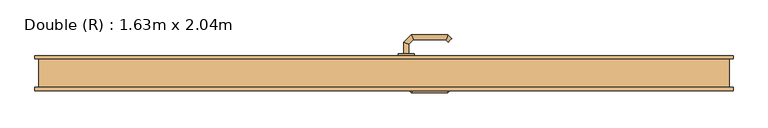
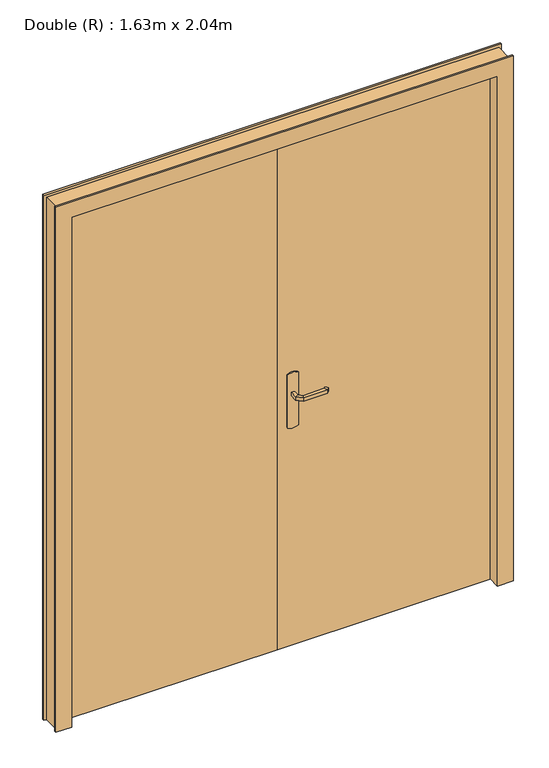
"""IFC4 building model written with IfcOpenShell, lengths in millimetres: door geometry, Double (R) : 1.63m x 2.04m."""

from ifc_helpers import new_model, si_unit, point, frame, frame_2d, origin, origin_with_axes, place, context, project, spatial, polyline, circle_curve, ellipse_curve, trimmed, segment, composite_curve, outline, extrude, faceted_brep, source, transform, mapped, element, save
from ifc_brep_helpers import plane_surface, cylinder_surface, advanced_brep


def double_r_1_63m_x_2_04m_24f9b1b7(model_context):
    return source(origin(), model_context, "Body", "SolidModel", [
        advanced_brep(
        [(61.0, -2.0, 993.0), (49.0, -2.0, 993.0), (49.0, -2.0, 1007.0), (61.0, -2.0, 1007.0), (61.0, -24.4852045, 1007.0), (61.0, -24.4852045, 993.0), (49.0, -29.4557673, 1007.0), (49.0, -29.4557673, 993.0), (72.4852814, -35.9704859, 1007.0), (72.4852814, -35.9704859, 993.0), (67.5147186, -47.9704859, 1007.0), (67.5147186, -47.9704859, 993.0), (152.5605023, -35.9704859, 1007.0), (152.5605023, -35.9704859, 993.0), (157.531065, -47.9704859, 1007.0), (157.531065, -47.9704859, 993.0), (157.8742108, -30.6567774, 993.0), (157.8742108, -30.6567774, 1007.0), (166.3594922, -39.1420588, 1007.0), (166.3594922, -39.1420588, 993.0)],
        [
            (0, 1, circle_curve(frame((55.0, -2.0, 1013.0457722), z_axis=(0.0, 1.0, 0.0), x_axis=(-1.0, 0.0, 0.0)), 20.9244589)),
            (1, 2),
            (2, 3, circle_curve(frame((55.0, -2.0, 986.9542278), z_axis=(0.0, 1.0, 0.0), x_axis=(-1.0, 0.0, 0.0)), 20.9244589)),
            (3, 0),
            (3, 4),
            (4, 5),
            (5, 0),
            (2, 6),
            (6, 4, ellipse_curve(frame((55.0, -26.9704859, 986.9542278), z_axis=(-0.38268343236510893, 0.9238795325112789, 0.0), x_axis=(0.9238795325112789, 0.3826834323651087, 0.0)), 22.6484711, 20.9244589)),
            (1, 7),
            (7, 6),
            (5, 7, ellipse_curve(frame((55.0, -26.9704859, 1013.0457722), z_axis=(-0.38268343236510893, 0.9238795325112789, 0.0), x_axis=(0.9238795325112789, 0.3826834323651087, 0.0)), 22.6484711, 20.9244589)),
            (4, 8),
            (8, 9),
            (9, 5),
            (6, 10),
            (10, 8, ellipse_curve(frame((70.0, -41.9704859, 986.9542278), z_axis=(-0.9238795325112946, 0.38268343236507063, 0.0), x_axis=(0.3826834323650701, 0.9238795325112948, 0.0)), 22.6484711, 20.9244589)),
            (7, 11),
            (11, 10),
            (9, 11, ellipse_curve(frame((70.0, -41.9704859, 1013.0457722), z_axis=(-0.9238795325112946, 0.38268343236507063, 0.0), x_axis=(0.3826834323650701, 0.9238795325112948, 0.0)), 22.6484711, 20.9244589)),
            (8, 12),
            (12, 13),
            (13, 9),
            (10, 14),
            (14, 12, ellipse_curve(frame((155.0457837, -41.9704859, 986.9542278), z_axis=(-0.9238795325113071, -0.38268343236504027, 0.0), x_axis=(-0.38268343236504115, 0.9238795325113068, 0.0)), 22.6484711, 20.9244589)),
            (11, 15),
            (15, 14),
            (13, 15, ellipse_curve(frame((155.0457837, -41.9704859, 1013.0457722), z_axis=(-0.9238795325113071, -0.38268343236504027, 0.0), x_axis=(-0.38268343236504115, 0.9238795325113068, 0.0)), 22.6484711, 20.9244589)),
            (16, 17),
            (17, 18, circle_curve(frame((162.1168515, -34.8994181, 986.9542278), z_axis=(0.7071067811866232, 0.7071067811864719, 0.0), x_axis=(0.7071067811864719, -0.7071067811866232, 0.0)), 20.9244589)),
            (18, 19),
            (19, 16, circle_curve(frame((162.1168515, -34.8994181, 1013.0457722), z_axis=(0.7071067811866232, 0.7071067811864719, 0.0), x_axis=(0.7071067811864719, -0.7071067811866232, 0.0)), 20.9244589)),
            (12, 17),
            (16, 13),
            (14, 18),
            (15, 19),
        ],
        [
            plane_surface(frame((45.7804555, -2.0, 1000.0), z_axis=(0.0, 1.0, 0.0), x_axis=(0.0, 0.0, 1.0))),
            plane_surface(frame((61.0, -2.0, 993.0), z_axis=(1.0, 0.0, 0.0), x_axis=(0.0, -1.0, 0.0))),
            cylinder_surface(frame((55.0, -2.0, 986.9542278), z_axis=(0.0, 1.0, 0.0), x_axis=(-1.0, 0.0, 0.0)), 20.9244589),
            plane_surface(frame((49.0, -2.0, 1007.0), z_axis=(-1.0, 0.0, 0.0), x_axis=(0.0, -1.0, 0.0))),
            cylinder_surface(frame((55.0, -2.0, 1013.0457722), z_axis=(0.0, 1.0, 0.0), x_axis=(-1.0, 0.0, 0.0)), 20.9244589),
            plane_surface(frame((61.0, -24.4852045, 993.0), z_axis=(0.707106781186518, 0.707106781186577, 0.0), x_axis=(0.707106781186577, -0.707106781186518, 0.0))),
            cylinder_surface(frame((55.0, -26.9704859, 986.9542278), z_axis=(-0.7071067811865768, 0.7071067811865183, 0.0), x_axis=(-0.7071067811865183, -0.7071067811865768, 0.0)), 20.9244589),
            plane_surface(frame((49.0, -29.4557673, 1007.0), z_axis=(-0.7071067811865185, -0.7071067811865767, 0.0), x_axis=(0.7071067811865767, -0.7071067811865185, 0.0))),
            cylinder_surface(frame((55.0, -26.9704859, 1013.0457722), z_axis=(-0.7071067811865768, 0.7071067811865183, 0.0), x_axis=(-0.7071067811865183, -0.7071067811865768, 0.0)), 20.9244589),
            plane_surface(frame((72.4852814, -35.9704859, 993.0), z_axis=(0.0, 1.0, 0.0), x_axis=(1.0, 0.0, 0.0))),
            cylinder_surface(frame((70.0, -41.9704859, 986.9542278), z_axis=(-1.0, 0.0, 0.0), x_axis=(0.0, -1.0, 0.0)), 20.9244589),
            plane_surface(frame((67.5147186, -47.9704859, 1007.0), z_axis=(0.0, -1.0, 0.0), x_axis=(1.0, 0.0, 0.0))),
            cylinder_surface(frame((70.0, -41.9704859, 1013.0457722), z_axis=(-1.0, 0.0, 0.0), x_axis=(0.0, -1.0, 0.0)), 20.9244589),
            plane_surface(frame((162.1168515, -34.8994181, 990.7804555), z_axis=(0.7071067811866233, 0.7071067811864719, 0.0), x_axis=(0.7071067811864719, -0.7071067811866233, 0.0))),
            plane_surface(frame((152.5605023, -35.9704859, 993.0), z_axis=(-0.707106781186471, 0.7071067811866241, 0.0), x_axis=(0.7071067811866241, 0.707106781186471, 0.0))),
            cylinder_surface(frame((155.0457837, -41.9704859, 986.9542278), z_axis=(-0.7071067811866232, -0.7071067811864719, 0.0), x_axis=(0.7071067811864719, -0.7071067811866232, 0.0)), 20.9244589),
            plane_surface(frame((157.531065, -47.9704859, 1007.0), z_axis=(0.7071067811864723, -0.7071067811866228, 0.0), x_axis=(0.7071067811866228, 0.7071067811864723, 0.0))),
            cylinder_surface(frame((155.0457837, -41.9704859, 1013.0457722), z_axis=(-0.7071067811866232, -0.7071067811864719, 0.0), x_axis=(0.7071067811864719, -0.7071067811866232, 0.0)), 20.9244589),
        ],
        [
            (0, [[1, 2, 3, 4]]),
            (1, [[5, 6, 7, -4]]),
            (2, [[8, 9, -5, -3]]),
            (3, [[10, 11, -8, -2]]),
            (4, [[-7, 12, -10, -1]]),
            (5, [[13, 14, 15, -6]]),
            (6, [[16, 17, -13, -9]]),
            (7, [[18, 19, -16, -11]]),
            (8, [[-15, 20, -18, -12]]),
            (9, [[21, 22, 23, -14]]),
            (10, [[24, 25, -21, -17]]),
            (11, [[26, 27, -24, -19]]),
            (12, [[-23, 28, -26, -20]]),
            (13, [[29, 30, 31, 32]]),
            (14, [[33, -29, 34, -22]]),
            (15, [[35, -30, -33, -25]]),
            (16, [[36, -31, -35, -27]]),
            (17, [[-34, -32, -36, -28]]),
        ],
    ),
        advanced_brep(
        [(49.0, 48.0, 1007.0), (49.0, 48.0, 993.0), (61.0, 48.0, 993.0), (61.0, 48.0, 1007.0), (61.0, 70.680388, 1007.0), (49.0, 75.6509507, 1007.0), (61.0, 70.680388, 993.0), (49.0, 75.6509507, 993.0), (72.3477727, 82.0281607, 1007.0), (67.37721, 94.0281607, 1007.0), (72.3477727, 82.0281607, 993.0), (67.37721, 94.0281607, 993.0), (152.5333592, 82.0281607, 1007.0), (157.503922, 94.0281607, 1007.0), (152.5333592, 82.0281607, 993.0), (157.503922, 94.0281607, 993.0), (166.3323491, 85.1997336, 1007.0), (157.8470677, 76.7144522, 1007.0), (157.8470677, 76.7144522, 993.0), (166.3323491, 85.1997336, 993.0)],
        [
            (0, 1),
            (1, 2, circle_curve(frame((55.0, 48.0, 1013.0457722), z_axis=(0.0, -1.0, 0.0), x_axis=(1.0, 0.0, 0.0)), 20.9244589)),
            (2, 3),
            (3, 0, circle_curve(frame((55.0, 48.0, 986.9542278), z_axis=(0.0, -1.0, 0.0), x_axis=(1.0, 0.0, 0.0)), 20.9244589)),
            (3, 4),
            (4, 5, ellipse_curve(frame((55.0, 73.1656693, 986.9542278), z_axis=(-0.3826834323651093, -0.9238795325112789, 0.0), x_axis=(0.9238795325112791, -0.38268343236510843, 0.0)), 22.6484711, 20.9244589)),
            (5, 0),
            (2, 6),
            (6, 4),
            (1, 7),
            (7, 6, ellipse_curve(frame((55.0, 73.1656693, 1013.0457722), z_axis=(-0.3826834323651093, -0.9238795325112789, 0.0), x_axis=(0.9238795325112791, -0.38268343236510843, 0.0)), 22.6484711, 20.9244589)),
            (5, 7),
            (4, 8),
            (8, 9, ellipse_curve(frame((69.8624914, 88.0281607, 986.9542278), z_axis=(-0.9238795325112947, -0.38268343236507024, 0.0), x_axis=(0.3826834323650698, -0.9238795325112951, 0.0)), 22.6484711, 20.9244589)),
            (9, 5),
            (6, 10),
            (10, 8),
            (7, 11),
            (11, 10, ellipse_curve(frame((69.8624914, 88.0281607, 1013.0457722), z_axis=(-0.9238795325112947, -0.38268343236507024, 0.0), x_axis=(0.3826834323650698, -0.9238795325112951, 0.0)), 22.6484711, 20.9244589)),
            (9, 11),
            (8, 12),
            (12, 13, ellipse_curve(frame((155.0186406, 88.0281607, 986.9542278), z_axis=(-0.9238795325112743, 0.3826834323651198, 0.0), x_axis=(-0.38268343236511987, -0.9238795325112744, 0.0)), 22.6484711, 20.9244589)),
            (13, 9),
            (10, 14),
            (14, 12),
            (11, 15),
            (15, 14, ellipse_curve(frame((155.0186406, 88.0281607, 1013.0457722), z_axis=(-0.9238795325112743, 0.3826834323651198, 0.0), x_axis=(-0.38268343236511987, -0.9238795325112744, 0.0)), 22.6484711, 20.9244589)),
            (13, 15),
            (16, 17, circle_curve(frame((162.0897084, 80.9570929, 986.9542278), z_axis=(0.7071067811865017, -0.7071067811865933, 0.0), x_axis=(-0.7071067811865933, -0.7071067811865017, 0.0)), 20.9244589)),
            (17, 18),
            (18, 19, circle_curve(frame((162.0897084, 80.9570929, 1013.0457722), z_axis=(0.7071067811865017, -0.7071067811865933, 0.0), x_axis=(-0.7071067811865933, -0.7071067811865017, 0.0)), 20.9244589)),
            (19, 16),
            (12, 17),
            (16, 13),
            (14, 18),
            (15, 19),
        ],
        [
            plane_surface(frame((45.7804555, 48.0, 1000.0), z_axis=(0.0, -1.0, 0.0), x_axis=(0.0, 0.0, -1.0))),
            cylinder_surface(frame((55.0, 48.0, 986.9542278), z_axis=(0.0, -1.0, 0.0), x_axis=(1.0, 0.0, 0.0)), 20.9244589),
            plane_surface(frame((61.0, 48.0, 1007.0), z_axis=(1.0, 0.0, 0.0), x_axis=(0.0, 1.0, 0.0))),
            cylinder_surface(frame((55.0, 48.0, 1013.0457722), z_axis=(0.0, -1.0, 0.0), x_axis=(1.0, 0.0, 0.0)), 20.9244589),
            plane_surface(frame((49.0, 48.0, 993.0), z_axis=(-1.0, 0.0, 0.0), x_axis=(0.0, 1.0, 0.0))),
            cylinder_surface(frame((55.0, 73.1656693, 986.9542278), z_axis=(-0.7071067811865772, -0.7071067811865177, 0.0), x_axis=(0.7071067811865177, -0.7071067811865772, 0.0)), 20.9244589),
            plane_surface(frame((61.0, 70.680388, 1007.0), z_axis=(0.7071067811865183, -0.7071067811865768, 0.0), x_axis=(0.7071067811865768, 0.7071067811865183, 0.0))),
            cylinder_surface(frame((55.0, 73.1656693, 1013.0457722), z_axis=(-0.7071067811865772, -0.7071067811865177, 0.0), x_axis=(0.7071067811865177, -0.7071067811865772, 0.0)), 20.9244589),
            plane_surface(frame((49.0, 75.6509507, 993.0), z_axis=(-0.707106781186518, 0.707106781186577, 0.0), x_axis=(0.707106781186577, 0.707106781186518, 0.0))),
            cylinder_surface(frame((69.8624914, 88.0281607, 986.9542278), z_axis=(-1.0, 0.0, 0.0), x_axis=(0.0, -1.0, 0.0)), 20.9244589),
            plane_surface(frame((72.3477727, 82.0281607, 1007.0), z_axis=(0.0, -1.0, 0.0), x_axis=(1.0, 0.0, 0.0))),
            cylinder_surface(frame((69.8624914, 88.0281607, 1013.0457722), z_axis=(-1.0, 0.0, 0.0), x_axis=(0.0, -1.0, 0.0)), 20.9244589),
            plane_surface(frame((67.37721, 94.0281607, 993.0), z_axis=(0.0, 1.0, 0.0), x_axis=(1.0, 0.0, 0.0))),
            plane_surface(frame((162.0897084, 80.9570929, 1009.2195445), z_axis=(0.7071067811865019, -0.7071067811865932, 0.0), x_axis=(0.7071067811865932, 0.7071067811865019, 0.0))),
            cylinder_surface(frame((155.0186406, 88.0281607, 986.9542278), z_axis=(-0.7071067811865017, 0.7071067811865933, 0.0), x_axis=(-0.7071067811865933, -0.7071067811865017, 0.0)), 20.9244589),
            plane_surface(frame((152.5333592, 82.0281607, 1007.0), z_axis=(-0.7071067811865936, -0.7071067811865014, 0.0), x_axis=(0.7071067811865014, -0.7071067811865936, 0.0))),
            cylinder_surface(frame((155.0186406, 88.0281607, 1013.0457722), z_axis=(-0.7071067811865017, 0.7071067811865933, 0.0), x_axis=(-0.7071067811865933, -0.7071067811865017, 0.0)), 20.9244589),
            plane_surface(frame((157.503922, 94.0281607, 993.0), z_axis=(0.707106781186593, 0.7071067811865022, 0.0), x_axis=(0.7071067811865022, -0.707106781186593, 0.0))),
        ],
        [
            (0, [[1, 2, 3, 4]]),
            (1, [[5, 6, 7, -4]]),
            (2, [[8, 9, -5, -3]]),
            (3, [[10, 11, -8, -2]]),
            (4, [[-7, 12, -10, -1]]),
            (5, [[13, 14, 15, -6]]),
            (6, [[16, 17, -13, -9]]),
            (7, [[18, 19, -16, -11]]),
            (8, [[-15, 20, -18, -12]]),
            (9, [[21, 22, 23, -14]]),
            (10, [[24, 25, -21, -17]]),
            (11, [[26, 27, -24, -19]]),
            (12, [[-23, 28, -26, -20]]),
            (13, [[29, 30, 31, 32]]),
            (14, [[33, -29, 34, -22]]),
            (15, [[35, -30, -33, -25]]),
            (16, [[36, -31, -35, -27]]),
            (17, [[-34, -32, -36, -28]]),
        ],
    ),
        extrude(outline(composite_curve([segment(trimmed(circle_curve(frame_2d((1045.3589838, 55.0)), 40.0), [point((1080.0, 75.0))], [point((1080.0, 35.0))], False, "CARTESIAN"), True, "CONTINUOUS"), segment(polyline([(1080.0, 35.0), (870.0, 35.0)]), True, "CONTINUOUS"), segment(trimmed(circle_curve(frame_2d((904.6410162, 55.0)), 40.0), [point((870.0, 35.0))], [point((870.0, 75.0))], False, "CARTESIAN"), True, "CONTINUOUS"), segment(polyline([(870.0, 75.0), (1080.0, 75.0)]), True, "CONTINUOUS")], self_intersect=False)), frame((0.0, -2.0, 0.0), z_axis=(0.0, 1.0, 0.0), x_axis=(0.0, 0.0, 1.0)), (0.0, 0.0, 1.0), 5.0),
        extrude(outline(composite_curve([segment(trimmed(circle_curve(frame_2d((904.6410162, 55.0)), 40.0), [point((870.0, 35.0))], [point((870.0, 75.0))], False, "CARTESIAN"), True, "CONTINUOUS"), segment(polyline([(870.0, 75.0), (1080.0, 75.0)]), True, "CONTINUOUS"), segment(trimmed(circle_curve(frame_2d((1045.3589838, 55.0)), 40.0), [point((1080.0, 75.0))], [point((1080.0, 35.0))], False, "CARTESIAN"), True, "CONTINUOUS"), segment(polyline([(1080.0, 35.0), (870.0, 35.0)]), True, "CONTINUOUS")], self_intersect=False)), frame((0.0, 43.0, 0.0), z_axis=(0.0, 1.0, 0.0), x_axis=(0.0, 0.0, 1.0)), (0.0, 0.0, 1.0), 5.0),
        faceted_brep([(-850.0, 35.0, 0.0), (-860.0, 35.0, 0.0), (-860.0, 43.0, 0.0), (-815.0, 43.0, 0.0), (-815.0, 3.0, 0.0), (-800.0, 3.0, 0.0), (-800.0, -43.0, 0.0), (-860.0, -43.0, 0.0), (-860.0, -35.0, 0.0), (-850.0, -35.0, 0.0), (-850.0, -35.0, 2075.0), (-850.0, 35.0, 2075.0), (-860.0, -35.0, 2085.0), (860.0, -35.0, 2085.0), (860.0, -35.0, 0.0), (850.0, -35.0, 0.0), (850.0, -35.0, 2075.0), (-860.0, -43.0, 2085.0), (-800.0, -43.0, 2025.0), (800.0, -43.0, 2025.0), (800.0, -43.0, 0.0), (860.0, -43.0, 0.0), (860.0, -43.0, 2085.0), (-800.0, 3.0, 2025.0), (-815.0, 3.0, 2040.0), (815.0, 3.0, 2040.0), (815.0, 3.0, 0.0), (800.0, 3.0, 0.0), (800.0, 3.0, 2025.0), (-815.0, 43.0, 2040.0), (-860.0, 43.0, 2085.0), (860.0, 43.0, 2085.0), (860.0, 43.0, 0.0), (815.0, 43.0, 0.0), (815.0, 43.0, 2040.0), (-860.0, 35.0, 2085.0), (850.0, 35.0, 2075.0), (850.0, 35.0, 0.0), (860.0, 35.0, 0.0), (860.0, 35.0, 2085.0)], [[[0, 1, 2, 3, 4, 5, 6, 7, 8, 9]], [[9, 10, 11, 0]], [[8, 12, 13, 14, 15, 16, 10, 9]], [[7, 17, 12, 8]], [[6, 18, 19, 20, 21, 22, 17, 7]], [[5, 23, 18, 6]], [[4, 24, 25, 26, 27, 28, 23, 5]], [[3, 29, 24, 4]], [[2, 30, 31, 32, 33, 34, 29, 3]], [[1, 35, 30, 2]], [[0, 11, 36, 37, 38, 39, 35, 1]], [[16, 15, 37, 36]], [[37, 15, 14, 21, 20, 27, 26, 33, 32, 38]], [[22, 21, 14, 13]], [[28, 27, 20, 19]], [[34, 33, 26, 25]], [[39, 38, 32, 31]], [[10, 16, 36, 11]], [[17, 22, 13, 12]], [[23, 28, 19, 18]], [[29, 34, 25, 24]], [[35, 39, 31, 30]]]),
        extrude(outline(polyline([(815.0, 43.0), (815.0, 3.0), (0.0, 3.0), (0.0, 43.0), (815.0, 43.0)])), origin_with_axes(), (0.0, 0.0, 1.0), 2040.0),
        extrude(outline(polyline([(0.0, 43.0), (0.0, 3.0), (-815.0, 3.0), (-815.0, 43.0), (0.0, 43.0)])), origin_with_axes(), (0.0, 0.0, 1.0), 2040.0),
    ])


if __name__ == "__main__":
    model = new_model("IFC4")
    model_context = context("Model", 3, world=origin())
    ifc_project = project(units=[si_unit("LENGTHUNIT", "METRE", prefix="MILLI")], contexts=[model_context])
    site = spatial("IfcSite", under=ifc_project)
    building = spatial("IfcBuilding", under=site)
    placement = place(None, origin())
    double_r_1_63m_x_2_04m_shape = double_r_1_63m_x_2_04m_24f9b1b7(model_context)
    element("IfcDoor", 1, ObjectType="Double (R) : 1.63m x 2.04m", at=placement, inside=building, context=model_context, shape_type="MappedRepresentation", body=[
        mapped(double_r_1_63m_x_2_04m_shape, transform((0.0, 0.0, 0.0), x_axis=(1.0, 0.0, 0.0), y_axis=(0.0, 1.0, 0.0), z_axis=(0.0, 0.0, 1.0))),
    ])
    save(model, "model.ifc")
